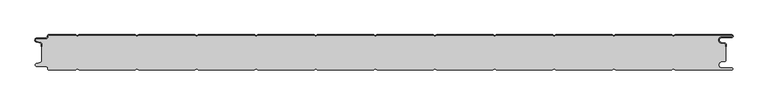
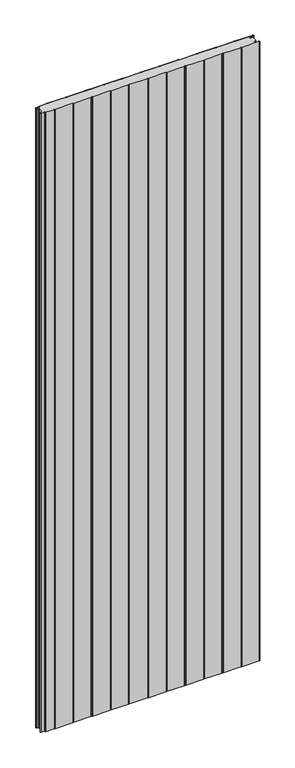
"""IFC4 building model written with IfcOpenShell, lengths in millimetres: plate geometry, PM1_Curtain-Panel_Perfil-Frigorífico : ACH_PM1_Panel-Acústico-Sectorización_60M."""

from ifc_helpers import new_model, si_unit, point, frame, frame_2d, origin, origin_with_axes, place, context, project, spatial, polyline, circle_curve, trimmed, segment, composite_curve, outline, extrude, source, transform, mapped, element, save
from ifc_brep_helpers import plane_surface, cylinder_surface, revolved_surface, advanced_brep


def plate_aace55ae(model_context):
    return source(origin(), model_context, "Body", "SolidModel", [
        advanced_brep(
        [(-575.0, -15.878557, 3500.0), (-575.0, -20.0, 3500.0), (-574.2, -20.0, 3500.0), (-574.2, -15.878557, 3500.0), (-576.370137, -13.1503208, 3500.0), (-582.529863, -11.728236, 3500.0), (-581.9, -6.2, 3500.0), (-566.4, -6.2, 3500.0), (-563.6, -3.4, 3500.0), (-563.6, -2.0, 3500.0), (-562.4, -0.8, 3500.0), (-517.3143588, -0.8, 3500.0), (-514.4, -2.482606, 3500.0), (-511.4856412, -0.8, 3500.0), (-417.3143588, -0.8, 3500.0), (-414.4, -2.482606, 3500.0), (-411.4856412, -0.8, 3500.0), (-317.3143588, -0.8, 3500.0), (-314.4, -2.482606, 3500.0), (-311.4856412, -0.8, 3500.0), (-217.3143588, -0.8, 3500.0), (-214.4, -2.482606, 3500.0), (-211.4856412, -0.8, 3500.0), (-117.3143588, -0.8, 3500.0), (-114.4, -2.482606, 3500.0), (-111.4856412, -0.8, 3500.0), (-17.3143588, -0.8, 3500.0), (-14.4, -2.482606, 3500.0), (-11.4856412, -0.8, 3500.0), (82.6856412, -0.8, 3500.0), (85.6, -2.482606, 3500.0), (88.5143588, -0.8, 3500.0), (182.6856412, -0.8, 3500.0), (185.6, -2.482606, 3500.0), (188.5143588, -0.8, 3500.0), (282.6856412, -0.8, 3500.0), (285.6, -2.482606, 3500.0), (288.5143588, -0.8, 3500.0), (382.6856412, -0.8, 3500.0), (385.6, -2.482606, 3500.0), (388.5143588, -0.8, 3500.0), (482.6856412, -0.8, 3500.0), (485.6, -2.482606, 3500.0), (488.5143588, -0.8, 3500.0), (583.1, -0.8, 3500.0), (583.1, -4.2, 3500.0), (566.1, -4.2, 3500.0), (565.2664884, -13.7270771, 3500.0), (571.7125669, -14.8636953, 3500.0), (573.2, -16.6363492, 3500.0), (573.2, -20.0, 3500.0), (574.0, -20.0, 3500.0), (574.0, -16.6363492, 3500.0), (571.8514855, -14.0758491, 3500.0), (565.405407, -12.939231, 3500.0), (566.1, -5.0, 3500.0), (583.1, -5.0, 3500.0), (585.6, -2.5, 3500.0), (583.1, 0.0, 3500.0), (488.2999995, 0.0, 3500.0), (485.6, -1.5588455, 3500.0), (482.9000005, 0.0, 3500.0), (388.2999995, 0.0, 3500.0), (385.6, -1.5588455, 3500.0), (382.9000005, 0.0, 3500.0), (288.2999995, 0.0, 3500.0), (285.6, -1.5588455, 3500.0), (282.9000005, 0.0, 3500.0), (188.2999995, 0.0, 3500.0), (185.6, -1.5588455, 3500.0), (182.9000005, 0.0, 3500.0), (88.2999995, 0.0, 3500.0), (85.6, -1.5588455, 3500.0), (82.9000005, 0.0, 3500.0), (-11.7000005, 0.0, 3500.0), (-14.4, -1.5588455, 3500.0), (-17.0999995, 0.0, 3500.0), (-111.7000005, 0.0, 3500.0), (-114.4, -1.5588455, 3500.0), (-117.0999995, 0.0, 3500.0), (-211.7000005, 0.0, 3500.0), (-214.4, -1.5588455, 3500.0), (-217.0999995, 0.0, 3500.0), (-311.7000005, 0.0, 3500.0), (-314.4, -1.5588455, 3500.0), (-317.0999995, 0.0, 3500.0), (-411.7000005, 0.0, 3500.0), (-414.4, -1.5588455, 3500.0), (-417.0999995, 0.0, 3500.0), (-511.7000005, 0.0, 3500.0), (-514.4, -1.5588455, 3500.0), (-517.0999995, 0.0, 3500.0), (-562.4, 0.0, 3500.0), (-564.4, -2.0, 3500.0), (-564.4, -3.4, 3500.0), (-566.4, -5.4, 3500.0), (-581.9, -5.4, 3500.0), (-582.7098239, -12.5077322, 3500.0), (-576.5500979, -13.929817, 3500.0), (-575.0, -15.878557, 0.0), (-576.5500978, -13.9298169, 0.0), (-582.7098239, -12.507732, 0.0), (-581.9, -5.4, 0.0), (-566.4, -5.4, 0.0), (-564.4, -3.4, 0.0), (-564.4, -2.0, 0.0), (-562.4, 0.0, 0.0), (-517.0999995, 0.0, 0.0), (-514.4, -1.5588455, 0.0), (-511.7000005, 0.0, 0.0), (-417.0999995, 0.0, 0.0), (-414.4, -1.5588455, 0.0), (-411.7000005, 0.0, 0.0), (-317.0999995, 0.0, 0.0), (-314.4, -1.5588455, 0.0), (-311.7000005, 0.0, 0.0), (-217.0999995, 0.0, 0.0), (-214.4, -1.5588455, 0.0), (-211.7000005, 0.0, 0.0), (-117.0999995, 0.0, 0.0), (-114.4, -1.5588455, 0.0), (-111.7000005, 0.0, 0.0), (-17.0999995, 0.0, 0.0), (-14.4, -1.5588455, 0.0), (-11.7000005, 0.0, 0.0), (82.9000005, 0.0, 0.0), (85.6, -1.5588455, 0.0), (88.2999995, 0.0, 0.0), (182.9000005, 0.0, 0.0), (185.6, -1.5588455, 0.0), (188.2999995, 0.0, 0.0), (282.9000005, 0.0, 0.0), (285.6, -1.5588455, 0.0), (288.2999995, 0.0, 0.0), (382.9000005, 0.0, 0.0), (385.6, -1.5588455, 0.0), (388.2999995, 0.0, 0.0), (482.9000005, 0.0, 0.0), (485.6, -1.5588455, 0.0), (488.2999995, 0.0, 0.0), (583.1, 0.0, 0.0), (585.6, -2.5, 0.0), (583.1, -5.0, 0.0), (566.1, -5.0, 0.0), (565.405407, -12.939231, 0.0), (571.8514855, -14.0758491, 0.0), (574.0, -16.6363492, 0.0), (574.0, -20.0, 0.0), (573.2, -20.0, 0.0), (573.2, -16.6363492, 0.0), (571.7125669, -14.8636953, 0.0), (565.2664884, -13.7270772, 0.0), (566.1, -4.2, 0.0), (583.1, -4.2, 0.0), (583.1, -0.8, 0.0), (488.5143588, -0.8, 0.0), (485.6, -2.482606, 0.0), (482.6856412, -0.8, 0.0), (388.5143588, -0.8, 0.0), (385.6, -2.482606, 0.0), (382.6856412, -0.8, 0.0), (288.5143588, -0.8, 0.0), (285.6, -2.482606, 0.0), (282.6856412, -0.8, 0.0), (188.5143588, -0.8, 0.0), (185.6, -2.482606, 0.0), (182.6856412, -0.8, 0.0), (88.5143588, -0.8, 0.0), (85.6, -2.482606, 0.0), (82.6856412, -0.8, 0.0), (-11.4856412, -0.8, 0.0), (-14.4, -2.482606, 0.0), (-17.3143588, -0.8, 0.0), (-111.4856412, -0.8, 0.0), (-114.4, -2.482606, 0.0), (-117.3143588, -0.8, 0.0), (-211.4856412, -0.8, 0.0), (-214.4, -2.482606, 0.0), (-217.3143588, -0.8, 0.0), (-311.4856412, -0.8, 0.0), (-314.4, -2.482606, 0.0), (-317.3143588, -0.8, 0.0), (-411.4856412, -0.8, 0.0), (-414.4, -2.482606, 0.0), (-417.3143588, -0.8, 0.0), (-511.4856412, -0.8, 0.0), (-514.4, -2.482606, 0.0), (-517.3143588, -0.8, 0.0), (-562.4, -0.8, 0.0), (-563.6, -2.0, 0.0), (-563.6, -3.4, 0.0), (-566.4, -6.2, 0.0), (-581.9, -6.2, 0.0), (-582.529863, -11.7282362, 0.0), (-576.370137, -13.150321, 0.0), (-574.2, -15.878557, 0.0), (-574.2, -20.0, 0.0), (-575.0, -20.0, 0.0)],
        [
            (0, 1),
            (1, 2),
            (2, 3),
            (3, 4, circle_curve(frame((-577.0, -15.878557, 3500.0), z_axis=(0.0, 0.0, 1.0), x_axis=(1.0, 0.0, 0.0)), 2.8)),
            (4, 5),
            (5, 6, circle_curve(frame((-581.9, -9.0, 3500.0), z_axis=(0.0, 0.0, -1.0), x_axis=(1.0, 0.0, 0.0)), 2.8)),
            (6, 7),
            (7, 8, circle_curve(frame((-566.4, -3.4, 3500.0), z_axis=(0.0, 0.0, 1.0), x_axis=(1.0, 0.0, 0.0)), 2.8)),
            (8, 9),
            (9, 10, circle_curve(frame((-562.4, -2.0, 3500.0), z_axis=(0.0, 0.0, -1.0), x_axis=(1.0, 0.0, 0.0)), 1.2)),
            (10, 11),
            (11, 12),
            (12, 13),
            (13, 14),
            (14, 15),
            (15, 16),
            (16, 17),
            (17, 18),
            (18, 19),
            (19, 20),
            (20, 21),
            (21, 22),
            (22, 23),
            (23, 24),
            (24, 25),
            (25, 26),
            (26, 27),
            (27, 28),
            (28, 29),
            (29, 30),
            (30, 31),
            (31, 32),
            (32, 33),
            (33, 34),
            (34, 35),
            (35, 36),
            (36, 37),
            (37, 38),
            (38, 39),
            (39, 40),
            (40, 41),
            (41, 42),
            (42, 43),
            (43, 44),
            (44, 45, circle_curve(frame((583.1, -2.5, 3500.0), z_axis=(0.0, 0.0, -1.0), x_axis=(1.0, 0.0, 0.0)), 1.7)),
            (45, 46),
            (46, 47, circle_curve(frame((566.1, -9.0, 3500.0), z_axis=(0.0, 0.0, 1.0), x_axis=(1.0, 0.0, 0.0)), 4.8)),
            (47, 48),
            (48, 49, circle_curve(frame((571.4, -16.6363492, 3500.0), z_axis=(0.0, 0.0, -1.0), x_axis=(1.0, 0.0, 0.0)), 1.8)),
            (49, 50),
            (50, 51),
            (51, 52),
            (52, 53, circle_curve(frame((571.4, -16.6363492, 3500.0), z_axis=(0.0, 0.0, 1.0), x_axis=(1.0, 0.0, 0.0)), 2.6)),
            (53, 54),
            (54, 55, circle_curve(frame((566.1, -9.0, 3500.0), z_axis=(0.0, 0.0, -1.0), x_axis=(1.0, 0.0, 0.0)), 4.0)),
            (55, 56),
            (56, 57, circle_curve(frame((583.1, -2.5, 3500.0), z_axis=(0.0, 0.0, 1.0), x_axis=(1.0, 0.0, 0.0)), 2.5)),
            (57, 58, circle_curve(frame((583.1, -2.5, 3500.0), z_axis=(0.0, 0.0, 1.0), x_axis=(1.0, 0.0, 0.0)), 2.5)),
            (58, 59),
            (59, 60),
            (60, 61),
            (61, 62),
            (62, 63),
            (63, 64),
            (64, 65),
            (65, 66),
            (66, 67),
            (67, 68),
            (68, 69),
            (69, 70),
            (70, 71),
            (71, 72),
            (72, 73),
            (73, 74),
            (74, 75),
            (75, 76),
            (76, 77),
            (77, 78),
            (78, 79),
            (79, 80),
            (80, 81),
            (81, 82),
            (82, 83),
            (83, 84),
            (84, 85),
            (85, 86),
            (86, 87),
            (87, 88),
            (88, 89),
            (89, 90),
            (90, 91),
            (91, 92),
            (92, 93, circle_curve(frame((-562.4, -2.0, 3500.0), z_axis=(0.0, 0.0, 1.0), x_axis=(1.0, 0.0, 0.0)), 2.0)),
            (93, 94),
            (94, 95, circle_curve(frame((-566.4, -3.4, 3500.0), z_axis=(0.0, 0.0, -1.0), x_axis=(1.0, 0.0, 0.0)), 2.0)),
            (95, 96),
            (96, 97, circle_curve(frame((-581.9, -9.0, 3500.0), z_axis=(0.0, 0.0, 1.0), x_axis=(1.0, 0.0, 0.0)), 3.6)),
            (97, 98),
            (98, 0, circle_curve(frame((-577.0, -15.878557, 3500.0), z_axis=(0.0, 0.0, -1.0), x_axis=(1.0, 0.0, 0.0)), 2.0)),
            (99, 100, circle_curve(frame((-577.0, -15.878557, 0.0), z_axis=(0.0, 0.0, 1.0), x_axis=(1.0, 0.0, 0.0)), 2.0)),
            (100, 101),
            (101, 102, circle_curve(frame((-581.9, -9.0, 0.0), z_axis=(0.0, 0.0, -1.0), x_axis=(1.0, 0.0, 0.0)), 3.6)),
            (102, 103),
            (103, 104, circle_curve(frame((-566.4, -3.4, 0.0), z_axis=(0.0, 0.0, 1.0), x_axis=(1.0, 0.0, 0.0)), 2.0)),
            (104, 105),
            (105, 106, circle_curve(frame((-562.4, -2.0, 0.0), z_axis=(0.0, 0.0, -1.0), x_axis=(1.0, 0.0, 0.0)), 2.0)),
            (106, 107),
            (107, 108),
            (108, 109),
            (109, 110),
            (110, 111),
            (111, 112),
            (112, 113),
            (113, 114),
            (114, 115),
            (115, 116),
            (116, 117),
            (117, 118),
            (118, 119),
            (119, 120),
            (120, 121),
            (121, 122),
            (122, 123),
            (123, 124),
            (124, 125),
            (125, 126),
            (126, 127),
            (127, 128),
            (128, 129),
            (129, 130),
            (130, 131),
            (131, 132),
            (132, 133),
            (133, 134),
            (134, 135),
            (135, 136),
            (136, 137),
            (137, 138),
            (138, 139),
            (139, 140),
            (140, 141, circle_curve(frame((583.1, -2.5, 0.0), z_axis=(0.0, 0.0, -1.0), x_axis=(1.0, 0.0, 0.0)), 2.5)),
            (141, 142, circle_curve(frame((583.1, -2.5, 0.0), z_axis=(0.0, 0.0, -1.0), x_axis=(1.0, 0.0, 0.0)), 2.5)),
            (142, 143),
            (143, 144, circle_curve(frame((566.1, -9.0, 0.0), z_axis=(0.0, 0.0, 1.0), x_axis=(1.0, 0.0, 0.0)), 4.0)),
            (144, 145),
            (145, 146, circle_curve(frame((571.4, -16.6363492, 0.0), z_axis=(0.0, 0.0, -1.0), x_axis=(1.0, 0.0, 0.0)), 2.6)),
            (146, 147),
            (147, 148),
            (148, 149),
            (149, 150, circle_curve(frame((571.4, -16.6363492, 0.0), z_axis=(0.0, 0.0, 1.0), x_axis=(1.0, 0.0, 0.0)), 1.8)),
            (150, 151),
            (151, 152, circle_curve(frame((566.1, -9.0, 0.0), z_axis=(0.0, 0.0, -1.0), x_axis=(1.0, 0.0, 0.0)), 4.8)),
            (152, 153),
            (153, 154, circle_curve(frame((583.1, -2.5, 0.0), z_axis=(0.0, 0.0, 1.0), x_axis=(1.0, 0.0, 0.0)), 1.7)),
            (154, 155),
            (155, 156),
            (156, 157),
            (157, 158),
            (158, 159),
            (159, 160),
            (160, 161),
            (161, 162),
            (162, 163),
            (163, 164),
            (164, 165),
            (165, 166),
            (166, 167),
            (167, 168),
            (168, 169),
            (169, 170),
            (170, 171),
            (171, 172),
            (172, 173),
            (173, 174),
            (174, 175),
            (175, 176),
            (176, 177),
            (177, 178),
            (178, 179),
            (179, 180),
            (180, 181),
            (181, 182),
            (182, 183),
            (183, 184),
            (184, 185),
            (185, 186),
            (186, 187),
            (187, 188),
            (188, 189, circle_curve(frame((-562.4, -2.0, 0.0), z_axis=(0.0, 0.0, 1.0), x_axis=(1.0, 0.0, 0.0)), 1.2)),
            (189, 190),
            (190, 191, circle_curve(frame((-566.4, -3.4, 0.0), z_axis=(0.0, 0.0, -1.0), x_axis=(1.0, 0.0, 0.0)), 2.8)),
            (191, 192),
            (192, 193, circle_curve(frame((-581.9, -9.0, 0.0), z_axis=(0.0, 0.0, 1.0), x_axis=(1.0, 0.0, 0.0)), 2.8)),
            (193, 194),
            (194, 195, circle_curve(frame((-577.0, -15.878557, 0.0), z_axis=(0.0, 0.0, -1.0), x_axis=(1.0, 0.0, 0.0)), 2.8)),
            (195, 196),
            (196, 197),
            (197, 99),
            (0, 99),
            (197, 1),
            (196, 2),
            (195, 3),
            (194, 4),
            (193, 5),
            (192, 6),
            (191, 7),
            (190, 8),
            (189, 9),
            (188, 10),
            (187, 11),
            (186, 12),
            (185, 13),
            (184, 14),
            (183, 15),
            (182, 16),
            (181, 17),
            (180, 18),
            (179, 19),
            (178, 20),
            (177, 21),
            (176, 22),
            (175, 23),
            (174, 24),
            (173, 25),
            (172, 26),
            (171, 27),
            (170, 28),
            (169, 29),
            (168, 30),
            (167, 31),
            (166, 32),
            (165, 33),
            (164, 34),
            (163, 35),
            (162, 36),
            (161, 37),
            (160, 38),
            (159, 39),
            (158, 40),
            (157, 41),
            (156, 42),
            (155, 43),
            (154, 44),
            (153, 45),
            (152, 46),
            (151, 47),
            (150, 48),
            (149, 49),
            (148, 50),
            (147, 51),
            (146, 52),
            (145, 53),
            (144, 54),
            (143, 55),
            (142, 56),
            (140, 58),
            (139, 59),
            (138, 60),
            (137, 61),
            (136, 62),
            (135, 63),
            (134, 64),
            (133, 65),
            (132, 66),
            (131, 67),
            (130, 68),
            (129, 69),
            (128, 70),
            (127, 71),
            (126, 72),
            (125, 73),
            (124, 74),
            (123, 75),
            (122, 76),
            (121, 77),
            (120, 78),
            (119, 79),
            (118, 80),
            (117, 81),
            (116, 82),
            (115, 83),
            (114, 84),
            (113, 85),
            (112, 86),
            (111, 87),
            (110, 88),
            (109, 89),
            (108, 90),
            (107, 91),
            (106, 92),
            (105, 93),
            (104, 94),
            (103, 95),
            (102, 96),
            (101, 97),
            (100, 98),
        ],
        [
            plane_surface(frame((-575.0, 0.0, 3500.0), z_axis=(0.0, 0.0, 1.0), x_axis=(0.0, 1.0, 0.0))),
            plane_surface(frame((-575.0, 0.0, 0.0), z_axis=(0.0, 0.0, -1.0), x_axis=(0.0, 1.0, 0.0))),
            plane_surface(frame((-575.0, -15.878557, 3500.0), z_axis=(-1.0, 0.0, 0.0), x_axis=(0.0, 0.0, -1.0))),
            plane_surface(frame((-575.0, -20.0, 3500.0), z_axis=(0.0, -1.0, 0.0), x_axis=(0.0, 0.0, -1.0))),
            plane_surface(frame((-574.2, -20.0, 3500.0), z_axis=(1.0, 0.0, 0.0), x_axis=(0.0, 0.0, -1.0))),
            cylinder_surface(frame((-577.0, -15.878557, 3500.0), z_axis=(0.0, 0.0, 1.0), x_axis=(1.0, 0.0, 0.0)), 2.8),
            plane_surface(frame((-576.370137, -13.150321, 3500.0), z_axis=(0.22495108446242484, 0.9743700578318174, 0.0), x_axis=(0.0, 0.0, -1.0))),
            revolved_surface(polyline([(-579.1, -9.0, 0.0), (-579.1, -9.0, 3500.0)]), (-581.9, -9.0, 3500.0), (0.0, 0.0, -1.0)),
            plane_surface(frame((-581.9, -6.2, 3500.0), z_axis=(0.0, -1.0, 0.0), x_axis=(0.0, 0.0, -1.0))),
            cylinder_surface(frame((-566.4, -3.4, 3500.0), z_axis=(0.0, 0.0, 1.0), x_axis=(1.0, 0.0, 0.0)), 2.8),
            plane_surface(frame((-563.6, -3.4, 3500.0), z_axis=(1.0, 0.0, 0.0), x_axis=(0.0, 0.0, -1.0))),
            revolved_surface(polyline([(-561.1999999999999, -2.0, 0.0), (-561.1999999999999, -2.0, 3500.0)]), (-562.4, -2.0, 3500.0), (0.0, 0.0, -1.0)),
            plane_surface(frame((-562.4, -0.8, 3500.0), z_axis=(0.0, -1.0, 0.0), x_axis=(0.0, 0.0, -1.0))),
            plane_surface(frame((-517.3143588, -0.8, 3500.0), z_axis=(-0.5000000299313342, -0.8660253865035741, 0.0), x_axis=(0.0, 0.0, -1.0))),
            plane_surface(frame((-514.4, -2.482606, 3500.0), z_axis=(0.5000000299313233, -0.8660253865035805, 0.0), x_axis=(0.0, 0.0, -1.0))),
            plane_surface(frame((-511.4856412, -0.8, 3500.0), z_axis=(0.0, -1.0, 0.0), x_axis=(0.0, 0.0, -1.0))),
            plane_surface(frame((-417.3143588, -0.8, 3500.0), z_axis=(-0.5000000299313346, -0.8660253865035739, 0.0), x_axis=(0.0, 0.0, -1.0))),
            plane_surface(frame((-414.4, -2.482606, 3500.0), z_axis=(0.5000000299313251, -0.8660253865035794, 0.0), x_axis=(0.0, 0.0, -1.0))),
            plane_surface(frame((-411.4856412, -0.8, 3500.0), z_axis=(0.0, -1.0, 0.0), x_axis=(0.0, 0.0, -1.0))),
            plane_surface(frame((-317.3143588, -0.8, 3500.0), z_axis=(-0.5000000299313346, -0.866025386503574, 0.0), x_axis=(0.0, 0.0, -1.0))),
            plane_surface(frame((-314.4, -2.482606, 3500.0), z_axis=(0.5000000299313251, -0.8660253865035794, 0.0), x_axis=(0.0, 0.0, -1.0))),
            plane_surface(frame((-311.4856412, -0.8, 3500.0), z_axis=(0.0, -1.0, 0.0), x_axis=(0.0, 0.0, -1.0))),
            plane_surface(frame((-217.3143588, -0.8, 3500.0), z_axis=(-0.5000000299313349, -0.8660253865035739, 0.0), x_axis=(0.0, 0.0, -1.0))),
            plane_surface(frame((-214.4, -2.482606, 3500.0), z_axis=(0.5000000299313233, -0.8660253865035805, 0.0), x_axis=(0.0, 0.0, -1.0))),
            plane_surface(frame((-211.4856412, -0.8, 3500.0), z_axis=(0.0, -1.0, 0.0), x_axis=(0.0, 0.0, -1.0))),
            plane_surface(frame((-117.3143588, -0.8, 3500.0), z_axis=(-0.5000000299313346, -0.866025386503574, 0.0), x_axis=(0.0, 0.0, -1.0))),
            plane_surface(frame((-114.4, -2.482606, 3500.0), z_axis=(0.5000000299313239, -0.8660253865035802, 0.0), x_axis=(0.0, 0.0, -1.0))),
            plane_surface(frame((-111.4856412, -0.8, 3500.0), z_axis=(0.0, -1.0, 0.0), x_axis=(0.0, 0.0, -1.0))),
            plane_surface(frame((-17.3143588, -0.8, 3500.0), z_axis=(-0.5000000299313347, -0.8660253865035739, 0.0), x_axis=(0.0, 0.0, -1.0))),
            plane_surface(frame((-14.4, -2.482606, 3500.0), z_axis=(0.5000000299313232, -0.8660253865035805, 0.0), x_axis=(0.0, 0.0, -1.0))),
            plane_surface(frame((-11.4856412, -0.8, 3500.0), z_axis=(0.0, -1.0, 0.0), x_axis=(0.0, 0.0, -1.0))),
            plane_surface(frame((82.6856412, -0.8, 3500.0), z_axis=(-0.5000000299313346, -0.866025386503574, 0.0), x_axis=(0.0, 0.0, -1.0))),
            plane_surface(frame((85.6, -2.482606, 3500.0), z_axis=(0.5000000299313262, -0.8660253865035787, 0.0), x_axis=(0.0, 0.0, -1.0))),
            plane_surface(frame((88.5143588, -0.8, 3500.0), z_axis=(0.0, -1.0, 0.0), x_axis=(0.0, 0.0, -1.0))),
            plane_surface(frame((182.6856412, -0.8, 3500.0), z_axis=(-0.5000000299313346, -0.8660253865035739, 0.0), x_axis=(0.0, 0.0, -1.0))),
            plane_surface(frame((185.6, -2.482606, 3500.0), z_axis=(0.5000000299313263, -0.8660253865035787, 0.0), x_axis=(0.0, 0.0, -1.0))),
            plane_surface(frame((188.5143588, -0.8, 3500.0), z_axis=(0.0, -1.0, 0.0), x_axis=(0.0, 0.0, -1.0))),
            plane_surface(frame((282.6856412, -0.8, 3500.0), z_axis=(-0.5000000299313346, -0.8660253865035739, 0.0), x_axis=(0.0, 0.0, -1.0))),
            plane_surface(frame((285.6, -2.482606, 3500.0), z_axis=(0.5000000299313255, -0.8660253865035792, 0.0), x_axis=(0.0, 0.0, -1.0))),
            plane_surface(frame((288.5143588, -0.8, 3500.0), z_axis=(0.0, -1.0, 0.0), x_axis=(0.0, 0.0, -1.0))),
            plane_surface(frame((382.6856412, -0.8, 3500.0), z_axis=(-0.5000000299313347, -0.8660253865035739, 0.0), x_axis=(0.0, 0.0, -1.0))),
            plane_surface(frame((385.6, -2.482606, 3500.0), z_axis=(0.5000000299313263, -0.8660253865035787, 0.0), x_axis=(0.0, 0.0, -1.0))),
            plane_surface(frame((388.5143588, -0.8, 3500.0), z_axis=(0.0, -1.0, 0.0), x_axis=(0.0, 0.0, -1.0))),
            plane_surface(frame((482.6856412, -0.8, 3500.0), z_axis=(-0.5000000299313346, -0.866025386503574, 0.0), x_axis=(0.0, 0.0, -1.0))),
            plane_surface(frame((485.6, -2.482606, 3500.0), z_axis=(0.5000000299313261, -0.8660253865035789, 0.0), x_axis=(0.0, 0.0, -1.0))),
            plane_surface(frame((535.6, -0.8, 3500.0), z_axis=(0.0, -1.0, 0.0), x_axis=(0.0, 0.0, -1.0))),
            revolved_surface(polyline([(584.8000000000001, -2.5, 0.0), (584.8000000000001, -2.5, 3500.0)]), (583.1, -2.5, 3500.0), (0.0, 0.0, -1.0)),
            plane_surface(frame((583.1, -4.2, 3500.0), z_axis=(0.0, 1.0, 0.0), x_axis=(0.0, 0.0, -1.0))),
            cylinder_surface(frame((566.1, -9.0, 3500.0), z_axis=(0.0, 0.0, 1.0), x_axis=(1.0, 0.0, 0.0)), 4.8),
            plane_surface(frame((565.2664884, -13.7270772, 3500.0), z_axis=(-0.17364825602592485, -0.9848077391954, 0.0), x_axis=(0.0, 0.0, -1.0))),
            revolved_surface(polyline([(573.1999999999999, -16.6363492, 0.0), (573.1999999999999, -16.6363492, 3500.0)]), (571.4, -16.6363492, 3500.0), (0.0, 0.0, -1.0)),
            plane_surface(frame((573.2, -16.6363492, 3500.0), z_axis=(-1.0, 0.0, 0.0), x_axis=(0.0, 0.0, -1.0))),
            plane_surface(frame((573.2, -20.0, 3500.0), z_axis=(0.0, -1.0, 0.0), x_axis=(0.0, 0.0, -1.0))),
            plane_surface(frame((574.0, -20.0, 3500.0), z_axis=(1.0, 0.0, 0.0), x_axis=(0.0, 0.0, -1.0))),
            cylinder_surface(frame((571.4, -16.6363492, 3500.0), z_axis=(0.0, 0.0, 1.0), x_axis=(1.0, 0.0, 0.0)), 2.6),
            plane_surface(frame((571.8514855, -14.0758491, 3500.0), z_axis=(0.1736482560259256, 0.9848077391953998, 0.0), x_axis=(0.0, 0.0, -1.0))),
            revolved_surface(polyline([(570.1, -9.0, 0.0), (570.1, -9.0, 3500.0)]), (566.1, -9.0, 3500.0), (0.0, 0.0, -1.0)),
            plane_surface(frame((566.1, -5.0, 3500.0), z_axis=(0.0, -1.0, 0.0), x_axis=(0.0, 0.0, -1.0))),
            cylinder_surface(frame((583.1, -2.5, 3500.0), z_axis=(0.0, 0.0, 1.0), x_axis=(1.0, 0.0, 0.0)), 2.5),
            plane_surface(frame((535.6, 0.0, 3500.0), z_axis=(0.0, 1.0, 0.0), x_axis=(0.0, 0.0, -1.0))),
            plane_surface(frame((488.2999995, 0.0, 3500.0), z_axis=(-0.5000000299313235, 0.8660253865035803, 0.0), x_axis=(0.0, 0.0, -1.0))),
            plane_surface(frame((485.6, -1.5588455, 3500.0), z_axis=(0.5000000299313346, 0.8660253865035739, 0.0), x_axis=(0.0, 0.0, -1.0))),
            plane_surface(frame((482.9000005, 0.0, 3500.0), z_axis=(0.0, 1.0, 0.0), x_axis=(0.0, 0.0, -1.0))),
            plane_surface(frame((388.2999995, 0.0, 3500.0), z_axis=(-0.5000000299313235, 0.8660253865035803, 0.0), x_axis=(0.0, 0.0, -1.0))),
            plane_surface(frame((385.6, -1.5588455, 3500.0), z_axis=(0.5000000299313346, 0.8660253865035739, 0.0), x_axis=(0.0, 0.0, -1.0))),
            plane_surface(frame((382.9000005, 0.0, 3500.0), z_axis=(0.0, 1.0, 0.0), x_axis=(0.0, 0.0, -1.0))),
            plane_surface(frame((288.2999995, 0.0, 3500.0), z_axis=(-0.5000000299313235, 0.8660253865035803, 0.0), x_axis=(0.0, 0.0, -1.0))),
            plane_surface(frame((285.6, -1.5588455, 3500.0), z_axis=(0.5000000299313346, 0.8660253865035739, 0.0), x_axis=(0.0, 0.0, -1.0))),
            plane_surface(frame((282.9000005, 0.0, 3500.0), z_axis=(0.0, 1.0, 0.0), x_axis=(0.0, 0.0, -1.0))),
            plane_surface(frame((188.2999995, 0.0, 3500.0), z_axis=(-0.5000000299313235, 0.8660253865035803, 0.0), x_axis=(0.0, 0.0, -1.0))),
            plane_surface(frame((185.6, -1.5588455, 3500.0), z_axis=(0.5000000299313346, 0.8660253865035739, 0.0), x_axis=(0.0, 0.0, -1.0))),
            plane_surface(frame((182.9000005, 0.0, 3500.0), z_axis=(0.0, 1.0, 0.0), x_axis=(0.0, 0.0, -1.0))),
            plane_surface(frame((88.2999995, 0.0, 3500.0), z_axis=(-0.5000000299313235, 0.8660253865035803, 0.0), x_axis=(0.0, 0.0, -1.0))),
            plane_surface(frame((85.6, -1.5588455, 3500.0), z_axis=(0.5000000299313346, 0.8660253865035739, 0.0), x_axis=(0.0, 0.0, -1.0))),
            plane_surface(frame((82.9000005, 0.0, 3500.0), z_axis=(0.0, 1.0, 0.0), x_axis=(0.0, 0.0, -1.0))),
            plane_surface(frame((-11.7000005, 0.0, 3500.0), z_axis=(-0.5000000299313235, 0.8660253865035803, 0.0), x_axis=(0.0, 0.0, -1.0))),
            plane_surface(frame((-14.4, -1.5588455, 3500.0), z_axis=(0.5000000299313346, 0.8660253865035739, 0.0), x_axis=(0.0, 0.0, -1.0))),
            plane_surface(frame((-17.0999995, 0.0, 3500.0), z_axis=(0.0, 1.0, 0.0), x_axis=(0.0, 0.0, -1.0))),
            plane_surface(frame((-111.7000005, 0.0, 3500.0), z_axis=(-0.5000000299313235, 0.8660253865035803, 0.0), x_axis=(0.0, 0.0, -1.0))),
            plane_surface(frame((-114.4, -1.5588455, 3500.0), z_axis=(0.5000000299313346, 0.8660253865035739, 0.0), x_axis=(0.0, 0.0, -1.0))),
            plane_surface(frame((-117.0999995, 0.0, 3500.0), z_axis=(0.0, 1.0, 0.0), x_axis=(0.0, 0.0, -1.0))),
            plane_surface(frame((-211.7000005, 0.0, 3500.0), z_axis=(-0.5000000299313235, 0.8660253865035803, 0.0), x_axis=(0.0, 0.0, -1.0))),
            plane_surface(frame((-214.4, -1.5588455, 3500.0), z_axis=(0.5000000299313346, 0.8660253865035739, 0.0), x_axis=(0.0, 0.0, -1.0))),
            plane_surface(frame((-217.0999995, 0.0, 3500.0), z_axis=(0.0, 1.0, 0.0), x_axis=(0.0, 0.0, -1.0))),
            plane_surface(frame((-311.7000005, 0.0, 3500.0), z_axis=(-0.5000000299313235, 0.8660253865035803, 0.0), x_axis=(0.0, 0.0, -1.0))),
            plane_surface(frame((-314.4, -1.5588455, 3500.0), z_axis=(0.5000000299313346, 0.8660253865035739, 0.0), x_axis=(0.0, 0.0, -1.0))),
            plane_surface(frame((-317.0999995, 0.0, 3500.0), z_axis=(0.0, 1.0, 0.0), x_axis=(0.0, 0.0, -1.0))),
            plane_surface(frame((-411.7000005, 0.0, 3500.0), z_axis=(-0.5000000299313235, 0.8660253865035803, 0.0), x_axis=(0.0, 0.0, -1.0))),
            plane_surface(frame((-414.4, -1.5588455, 3500.0), z_axis=(0.5000000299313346, 0.8660253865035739, 0.0), x_axis=(0.0, 0.0, -1.0))),
            plane_surface(frame((-417.0999995, 0.0, 3500.0), z_axis=(0.0, 1.0, 0.0), x_axis=(0.0, 0.0, -1.0))),
            plane_surface(frame((-511.7000005, 0.0, 3500.0), z_axis=(-0.5000000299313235, 0.8660253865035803, 0.0), x_axis=(0.0, 0.0, -1.0))),
            plane_surface(frame((-514.4, -1.5588455, 3500.0), z_axis=(0.5000000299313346, 0.8660253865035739, 0.0), x_axis=(0.0, 0.0, -1.0))),
            plane_surface(frame((-517.0999995, 0.0, 3500.0), z_axis=(0.0, 1.0, 0.0), x_axis=(0.0, 0.0, -1.0))),
            cylinder_surface(frame((-562.4, -2.0, 3500.0), z_axis=(0.0, 0.0, 1.0), x_axis=(1.0, 0.0, 0.0)), 2.0),
            plane_surface(frame((-564.4, -2.0, 3500.0), z_axis=(-1.0, 0.0, 0.0), x_axis=(0.0, 0.0, -1.0))),
            revolved_surface(polyline([(-564.4, -3.4, 0.0), (-564.4, -3.4, 3500.0)]), (-566.4, -3.4, 3500.0), (0.0, 0.0, -1.0)),
            plane_surface(frame((-566.4, -5.4, 3500.0), z_axis=(0.0, 1.0, 0.0), x_axis=(0.0, 0.0, -1.0))),
            cylinder_surface(frame((-581.9, -9.0, 3500.0), z_axis=(0.0, 0.0, 1.0), x_axis=(1.0, 0.0, 0.0)), 3.6),
            plane_surface(frame((-582.7098239, -12.507732, 3500.0), z_axis=(-0.22495108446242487, -0.9743700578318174, 0.0), x_axis=(0.0, 0.0, -1.0))),
            revolved_surface(polyline([(-575.0, -15.878557, 0.0), (-575.0, -15.878557, 3500.0)]), (-577.0, -15.878557, 3500.0), (0.0, 0.0, -1.0)),
        ],
        [
            (0, [[1, 2, 3, 4, 5, 6, 7, 8, 9, 10, 11, 12, 13, 14, 15, 16, 17, 18, 19, 20, 21, 22, 23, 24, 25, 26, 27, 28, 29, 30, 31, 32, 33, 34, 35, 36, 37, 38, 39, 40, 41, 42, 43, 44, 45, 46, 47, 48, 49, 50, 51, 52, 53, 54, 55, 56, 57, 58, 59, 60, 61, 62, 63, 64, 65, 66, 67, 68, 69, 70, 71, 72, 73, 74, 75, 76, 77, 78, 79, 80, 81, 82, 83, 84, 85, 86, 87, 88, 89, 90, 91, 92, 93, 94, 95, 96, 97, 98, 99]]),
            (1, [[100, 101, 102, 103, 104, 105, 106, 107, 108, 109, 110, 111, 112, 113, 114, 115, 116, 117, 118, 119, 120, 121, 122, 123, 124, 125, 126, 127, 128, 129, 130, 131, 132, 133, 134, 135, 136, 137, 138, 139, 140, 141, 142, 143, 144, 145, 146, 147, 148, 149, 150, 151, 152, 153, 154, 155, 156, 157, 158, 159, 160, 161, 162, 163, 164, 165, 166, 167, 168, 169, 170, 171, 172, 173, 174, 175, 176, 177, 178, 179, 180, 181, 182, 183, 184, 185, 186, 187, 188, 189, 190, 191, 192, 193, 194, 195, 196, 197, 198]]),
            (2, [[-1, 199, -198, 200]]),
            (3, [[-2, -200, -197, 201]]),
            (4, [[-3, -201, -196, 202]]),
            (5, [[-4, -202, -195, 203]]),
            (6, [[-5, -203, -194, 204]]),
            (7, [[-6, -204, -193, 205]]),
            (8, [[-7, -205, -192, 206]]),
            (9, [[-8, -206, -191, 207]]),
            (10, [[-9, -207, -190, 208]]),
            (11, [[-10, -208, -189, 209]]),
            (12, [[-11, -209, -188, 210]]),
            (13, [[-12, -210, -187, 211]]),
            (14, [[-13, -211, -186, 212]]),
            (15, [[-14, -212, -185, 213]]),
            (16, [[-15, -213, -184, 214]]),
            (17, [[-16, -214, -183, 215]]),
            (18, [[-17, -215, -182, 216]]),
            (19, [[-18, -216, -181, 217]]),
            (20, [[-19, -217, -180, 218]]),
            (21, [[-20, -218, -179, 219]]),
            (22, [[-21, -219, -178, 220]]),
            (23, [[-22, -220, -177, 221]]),
            (24, [[-23, -221, -176, 222]]),
            (25, [[-24, -222, -175, 223]]),
            (26, [[-25, -223, -174, 224]]),
            (27, [[-26, -224, -173, 225]]),
            (28, [[-27, -225, -172, 226]]),
            (29, [[-28, -226, -171, 227]]),
            (30, [[-29, -227, -170, 228]]),
            (31, [[-30, -228, -169, 229]]),
            (32, [[-31, -229, -168, 230]]),
            (33, [[-32, -230, -167, 231]]),
            (34, [[-33, -231, -166, 232]]),
            (35, [[-34, -232, -165, 233]]),
            (36, [[-35, -233, -164, 234]]),
            (37, [[-36, -234, -163, 235]]),
            (38, [[-37, -235, -162, 236]]),
            (39, [[-38, -236, -161, 237]]),
            (40, [[-39, -237, -160, 238]]),
            (41, [[-40, -238, -159, 239]]),
            (42, [[-41, -239, -158, 240]]),
            (43, [[-42, -240, -157, 241]]),
            (44, [[-43, -241, -156, 242]]),
            (45, [[-44, -242, -155, 243]]),
            (46, [[-45, -243, -154, 244]]),
            (47, [[-46, -244, -153, 245]]),
            (48, [[-47, -245, -152, 246]]),
            (49, [[-48, -246, -151, 247]]),
            (50, [[-49, -247, -150, 248]]),
            (51, [[-50, -248, -149, 249]]),
            (52, [[-51, -249, -148, 250]]),
            (53, [[-52, -250, -147, 251]]),
            (54, [[-53, -251, -146, 252]]),
            (55, [[-54, -252, -145, 253]]),
            (56, [[-55, -253, -144, 254]]),
            (57, [[-56, -254, -143, 255]]),
            (58, [[-255, -142, -141, 256, -58, -57]]),
            (59, [[-59, -256, -140, 257]]),
            (60, [[-60, -257, -139, 258]]),
            (61, [[-61, -258, -138, 259]]),
            (62, [[-62, -259, -137, 260]]),
            (63, [[-63, -260, -136, 261]]),
            (64, [[-64, -261, -135, 262]]),
            (65, [[-65, -262, -134, 263]]),
            (66, [[-66, -263, -133, 264]]),
            (67, [[-67, -264, -132, 265]]),
            (68, [[-68, -265, -131, 266]]),
            (69, [[-69, -266, -130, 267]]),
            (70, [[-70, -267, -129, 268]]),
            (71, [[-71, -268, -128, 269]]),
            (72, [[-72, -269, -127, 270]]),
            (73, [[-73, -270, -126, 271]]),
            (74, [[-74, -271, -125, 272]]),
            (75, [[-75, -272, -124, 273]]),
            (76, [[-76, -273, -123, 274]]),
            (77, [[-77, -274, -122, 275]]),
            (78, [[-78, -275, -121, 276]]),
            (79, [[-79, -276, -120, 277]]),
            (80, [[-80, -277, -119, 278]]),
            (81, [[-81, -278, -118, 279]]),
            (82, [[-82, -279, -117, 280]]),
            (83, [[-83, -280, -116, 281]]),
            (84, [[-84, -281, -115, 282]]),
            (85, [[-85, -282, -114, 283]]),
            (86, [[-86, -283, -113, 284]]),
            (87, [[-87, -284, -112, 285]]),
            (88, [[-88, -285, -111, 286]]),
            (89, [[-89, -286, -110, 287]]),
            (90, [[-90, -287, -109, 288]]),
            (91, [[-91, -288, -108, 289]]),
            (92, [[-92, -289, -107, 290]]),
            (93, [[-93, -290, -106, 291]]),
            (94, [[-94, -291, -105, 292]]),
            (95, [[-95, -292, -104, 293]]),
            (96, [[-96, -293, -103, 294]]),
            (97, [[-97, -294, -102, 295]]),
            (98, [[-98, -295, -101, 296]]),
            (99, [[-99, -296, -100, -199]]),
        ],
    ),
        extrude(outline(composite_curve([segment(polyline([(-574.2, -44.1214426), (-574.2, -15.8785573)]), True, "CONTINUOUS"), segment(trimmed(circle_curve(frame_2d((-577.0, -15.8785573)), 2.8), [point((-574.2, -15.8785573))], [point((-576.370137, -13.1503212))], True, "CARTESIAN"), True, "CONTINUOUS"), segment(polyline([(-576.370137, -13.1503212), (-582.5298631, -11.7282362)]), True, "CONTINUOUS"), segment(trimmed(circle_curve(frame_2d((-581.9, -9.0)), 2.8), [point((-582.5298631, -11.7282362))], [point((-581.9, -6.2))], False, "CARTESIAN"), True, "CONTINUOUS"), segment(polyline([(-581.9, -6.2), (-566.4000001, -6.2)]), True, "CONTINUOUS"), segment(trimmed(circle_curve(frame_2d((-566.4000001, -3.4)), 2.8), [point((-566.4000001, -6.2))], [point((-563.6000001, -3.4))], True, "CARTESIAN"), True, "CONTINUOUS"), segment(polyline([(-563.6000001, -3.4), (-563.6000001, -2.0)]), True, "CONTINUOUS"), segment(trimmed(circle_curve(frame_2d((-562.4000001, -2.0)), 1.2), [point((-563.6000001, -2.0))], [point((-562.4000001, -0.8))], False, "CARTESIAN"), True, "CONTINUOUS"), segment(polyline([(-562.4000001, -0.8), (-517.3143589, -0.8), (-514.4000001, -2.482606), (-511.4856412, -0.8), (-417.3143589, -0.8), (-414.4000001, -2.482606), (-411.4856412, -0.8), (-317.3143589, -0.8), (-314.4000001, -2.482606), (-311.4856412, -0.8), (-217.3143589, -0.8), (-214.4000001, -2.482606), (-211.4856412, -0.8), (-117.3143589, -0.8), (-114.4000001, -2.482606), (-111.4856412, -0.8), (-17.3143589, -0.8), (-14.4000001, -2.482606), (-11.4856412, -0.8), (82.6856411, -0.8), (85.5999999, -2.482606), (88.5143588, -0.8), (182.6856411, -0.8), (185.5999999, -2.482606), (188.5143588, -0.8), (282.6856411, -0.8), (285.5999999, -2.482606), (288.5143588, -0.8), (382.6856411, -0.8), (385.5999999, -2.482606), (388.5143588, -0.8), (482.6856411, -0.8), (485.6, -2.482606), (488.5143588, -0.8), (583.1, -0.8)]), True, "CONTINUOUS"), segment(trimmed(circle_curve(frame_2d((583.1, -2.5)), 1.7), [point((583.1, -0.8))], [point((583.1, -4.2))], False, "CARTESIAN"), True, "CONTINUOUS"), segment(polyline([(583.1, -4.2), (566.1, -4.2)]), True, "CONTINUOUS"), segment(trimmed(circle_curve(frame_2d((566.1, -9.0)), 4.8), [point((566.1, -4.2))], [point((565.2664883, -13.7270771))], True, "CARTESIAN"), True, "CONTINUOUS"), segment(polyline([(565.2664883, -13.7270771), (571.7125668, -14.8636953)]), True, "CONTINUOUS"), segment(trimmed(circle_curve(frame_2d((571.4, -16.6363492)), 1.8), [point((571.7125668, -14.8636953))], [point((573.2, -16.6363492))], False, "CARTESIAN"), True, "CONTINUOUS"), segment(polyline([(573.2, -16.6363492), (573.2, -43.3636508)]), True, "CONTINUOUS"), segment(trimmed(circle_curve(frame_2d((571.4, -43.3636508)), 1.8), [point((573.2, -43.3636508))], [point((571.7125668, -45.1363047))], False, "CARTESIAN"), True, "CONTINUOUS"), segment(polyline([(571.7125668, -45.1363047), (565.2664883, -46.2729229)]), True, "CONTINUOUS"), segment(trimmed(circle_curve(frame_2d((566.1, -51.0)), 4.8), [point((565.2664883, -46.2729229))], [point((566.1, -55.8))], True, "CARTESIAN"), True, "CONTINUOUS"), segment(polyline([(566.1, -55.8), (583.1, -55.8)]), True, "CONTINUOUS"), segment(trimmed(circle_curve(frame_2d((583.1, -57.5)), 1.7), [point((583.1, -55.8))], [point((583.1, -59.2))], False, "CARTESIAN"), True, "CONTINUOUS"), segment(polyline([(583.1, -59.2), (488.5143588, -59.2), (485.6, -57.517394), (482.6856411, -59.2), (388.5143588, -59.2), (385.5999999, -57.517394), (382.6856411, -59.2), (288.5143588, -59.2), (285.5999999, -57.517394), (282.6856411, -59.2), (188.5143588, -59.2), (185.5999999, -57.517394), (182.6856411, -59.2), (88.5143588, -59.2), (85.5999999, -57.517394), (82.6856411, -59.2), (-11.4856412, -59.2), (-14.4000001, -57.517394), (-17.3143589, -59.2), (-111.4856412, -59.2), (-114.4000001, -57.517394), (-117.3143589, -59.2), (-211.4856412, -59.2), (-214.4000001, -57.517394), (-217.3143589, -59.2), (-311.4856412, -59.2), (-314.4000001, -57.517394), (-317.3143589, -59.2), (-411.4856412, -59.2), (-414.4000001, -57.517394), (-417.3143589, -59.2), (-511.4856412, -59.2), (-514.4000001, -57.517394), (-517.3143589, -59.2), (-562.4000001, -59.2)]), True, "CONTINUOUS"), segment(trimmed(circle_curve(frame_2d((-562.4000001, -58.0)), 1.2), [point((-562.4000001, -59.2))], [point((-563.6000001, -58.0))], False, "CARTESIAN"), True, "CONTINUOUS"), segment(polyline([(-563.6000001, -58.0), (-563.6000001, -56.6)]), True, "CONTINUOUS"), segment(trimmed(circle_curve(frame_2d((-566.4000001, -56.6)), 2.8), [point((-563.6000001, -56.6))], [point((-566.4000001, -53.8))], True, "CARTESIAN"), True, "CONTINUOUS"), segment(polyline([(-566.4000001, -53.8), (-581.9, -53.8)]), True, "CONTINUOUS"), segment(trimmed(circle_curve(frame_2d((-581.9, -51.0)), 2.8), [point((-581.9, -53.8))], [point((-582.5298631, -48.2717638))], False, "CARTESIAN"), True, "CONTINUOUS"), segment(polyline([(-582.5298631, -48.2717638), (-576.370137, -46.8496788)]), True, "CONTINUOUS"), segment(trimmed(circle_curve(frame_2d((-577.0, -44.1214426)), 2.8), [point((-576.370137, -46.8496788))], [point((-574.2, -44.1214426))], True, "CARTESIAN"), True, "CONTINUOUS")], self_intersect=False)), origin_with_axes(), (0.0, 0.0, 1.0), 3500.0),
    ])


if __name__ == "__main__":
    model = new_model("IFC4")
    model_context = context("Model", 3, world=origin())
    ifc_project = project(units=[si_unit("LENGTHUNIT", "METRE", prefix="MILLI")], contexts=[model_context])
    site = spatial("IfcSite", under=ifc_project)
    building = spatial("IfcBuilding", under=site)
    placement = place(None, origin())
    plate_shape = plate_aace55ae(model_context)
    element("IfcPlate", 1, ObjectType="PM1_Curtain-Panel_Perfil-Frigorífico : ACH_PM1_Panel-Acústico-Sectorización_60M", at=placement, inside=building, context=model_context, shape_type="MappedRepresentation", body=[
        mapped(plate_shape, transform((0.0, 0.0, 0.0), x_axis=(1.0, 0.0, 0.0), y_axis=(0.0, 1.0, 0.0), z_axis=(0.0, 0.0, 1.0))),
    ])
    save(model, "model.ifc")
